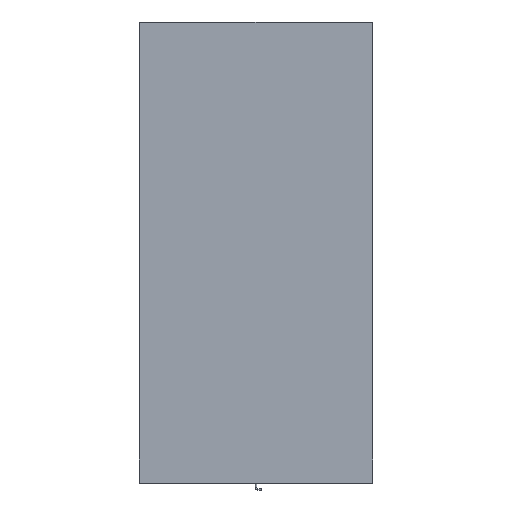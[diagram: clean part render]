
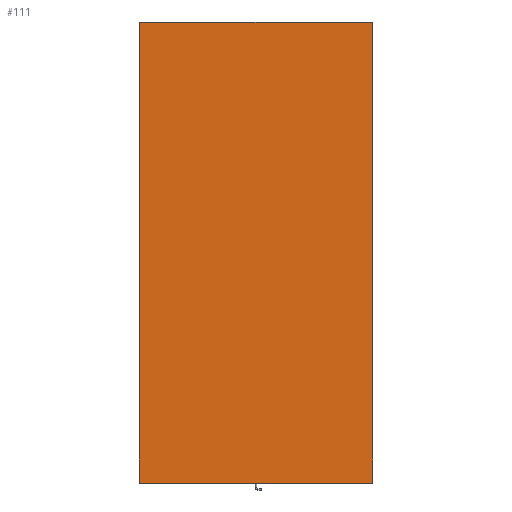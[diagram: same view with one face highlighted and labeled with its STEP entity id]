
A CAD part, top view. The second image highlights one B-rep face of the part: STEP entity #111.
In plain terms, the highlighted planar face has unit normal (0, 0, 1).
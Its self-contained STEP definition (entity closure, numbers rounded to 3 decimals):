
#24 = EDGE_CURVE ( 'NONE', #705, #378, #532, .T. ) ;
#91 = VECTOR ( 'NONE', #1494, 1000. ) ;
#93 = EDGE_CURVE ( 'NONE', #538, #675, #992, .T. ) ;
#111 = ADVANCED_FACE ( 'NONE', ( #744 ), #889, .F. ) ;
#157 = VERTEX_POINT ( 'NONE', #1541 ) ;
#166 = DIRECTION ( 'NONE',  ( 0.707, -0.707, 0. ) ) ;
#188 = ORIENTED_EDGE ( 'NONE', *, *, #2098, .T. ) ;
#209 = CARTESIAN_POINT ( 'NONE',  ( -307., 607., 41. ) ) ;
#227 = CARTESIAN_POINT ( 'NONE',  ( 307., -606.5, 41. ) ) ;
#262 = CARTESIAN_POINT ( 'NONE',  ( -307., -607., 41. ) ) ;
#331 = AXIS2_PLACEMENT_3D ( 'NONE', #417, #1894, #1694 ) ;
#355 = EDGE_CURVE ( 'NONE', #675, #495, #608, .T. ) ;
#378 = VERTEX_POINT ( 'NONE', #1129 ) ;
#417 = CARTESIAN_POINT ( 'NONE',  ( 0., 0., 41. ) ) ;
#431 = LINE ( 'NONE', #1810, #2021 ) ;
#477 = ORIENTED_EDGE ( 'NONE', *, *, #355, .T. ) ;
#495 = VERTEX_POINT ( 'NONE', #1874 ) ;
#532 = LINE ( 'NONE', #227, #91 ) ;
#538 = VERTEX_POINT ( 'NONE', #2079 ) ;
#571 = DIRECTION ( 'NONE',  ( 1., 0., 0. ) ) ;
#608 = LINE ( 'NONE', #262, #1084 ) ;
#661 = DIRECTION ( 'NONE',  ( 0., 1., 0. ) ) ;
#675 = VERTEX_POINT ( 'NONE', #1965 ) ;
#692 = CARTESIAN_POINT ( 'NONE',  ( 306.5, -607., 41. ) ) ;
#705 = VERTEX_POINT ( 'NONE', #692 ) ;
#733 = ORIENTED_EDGE ( 'NONE', *, *, #770, .T. ) ;
#738 = EDGE_LOOP ( 'NONE', ( #477, #188, #1645, #1725, #1585, #1835, #733, #1657 ) ) ;
#744 = FACE_OUTER_BOUND ( 'NONE', #738, .T. ) ;
#770 = EDGE_CURVE ( 'NONE', #2138, #538, #2045, .T. ) ;
#810 = CARTESIAN_POINT ( 'NONE',  ( -307., -607., 41. ) ) ;
#823 = CARTESIAN_POINT ( 'NONE',  ( 306.5, 607., 41. ) ) ;
#889 = PLANE ( 'NONE',  #331 ) ;
#890 = VECTOR ( 'NONE', #571, 1000. ) ;
#952 = LINE ( 'NONE', #1393, #1007 ) ;
#992 = LINE ( 'NONE', #1654, #1630 ) ;
#1007 = VECTOR ( 'NONE', #1087, 1000. ) ;
#1084 = VECTOR ( 'NONE', #1924, 1000. ) ;
#1087 = DIRECTION ( 'NONE',  ( -0.707, 0.707, 0. ) ) ;
#1096 = CARTESIAN_POINT ( 'NONE',  ( -306.5, -607., 41. ) ) ;
#1129 = CARTESIAN_POINT ( 'NONE',  ( 307., -606.5, 41. ) ) ;
#1130 = LINE ( 'NONE', #1795, #1469 ) ;
#1186 = DIRECTION ( 'NONE',  ( -0.707, -0.707, 0. ) ) ;
#1371 = EDGE_CURVE ( 'NONE', #1996, #705, #1887, .T. ) ;
#1393 = CARTESIAN_POINT ( 'NONE',  ( 306.5, 607., 41. ) ) ;
#1424 = EDGE_CURVE ( 'NONE', #157, #2138, #952, .T. ) ;
#1445 = VECTOR ( 'NONE', #1995, 1000. ) ;
#1469 = VECTOR ( 'NONE', #661, 1000. ) ;
#1494 = DIRECTION ( 'NONE',  ( 0.707, 0.707, 0. ) ) ;
#1541 = CARTESIAN_POINT ( 'NONE',  ( 307., 606.5, 41. ) ) ;
#1585 = ORIENTED_EDGE ( 'NONE', *, *, #2118, .T. ) ;
#1630 = VECTOR ( 'NONE', #1186, 1000. ) ;
#1645 = ORIENTED_EDGE ( 'NONE', *, *, #1371, .T. ) ;
#1654 = CARTESIAN_POINT ( 'NONE',  ( -307., 606.5, 41. ) ) ;
#1657 = ORIENTED_EDGE ( 'NONE', *, *, #93, .T. ) ;
#1694 = DIRECTION ( 'NONE',  ( -1., 0., 0. ) ) ;
#1725 = ORIENTED_EDGE ( 'NONE', *, *, #24, .T. ) ;
#1795 = CARTESIAN_POINT ( 'NONE',  ( 307., -607., 41. ) ) ;
#1810 = CARTESIAN_POINT ( 'NONE',  ( -306.5, -607., 41. ) ) ;
#1835 = ORIENTED_EDGE ( 'NONE', *, *, #1424, .T. ) ;
#1874 = CARTESIAN_POINT ( 'NONE',  ( -307., -606.5, 41. ) ) ;
#1887 = LINE ( 'NONE', #810, #890 ) ;
#1894 = DIRECTION ( 'NONE',  ( 0., 0., -1. ) ) ;
#1924 = DIRECTION ( 'NONE',  ( 0., -1., 0. ) ) ;
#1965 = CARTESIAN_POINT ( 'NONE',  ( -307., 606.5, 41. ) ) ;
#1995 = DIRECTION ( 'NONE',  ( -1., 0., 0. ) ) ;
#1996 = VERTEX_POINT ( 'NONE', #1096 ) ;
#2021 = VECTOR ( 'NONE', #166, 1000. ) ;
#2045 = LINE ( 'NONE', #209, #1445 ) ;
#2079 = CARTESIAN_POINT ( 'NONE',  ( -306.5, 607., 41. ) ) ;
#2098 = EDGE_CURVE ( 'NONE', #495, #1996, #431, .T. ) ;
#2118 = EDGE_CURVE ( 'NONE', #378, #157, #1130, .T. ) ;
#2138 = VERTEX_POINT ( 'NONE', #823 ) ;
